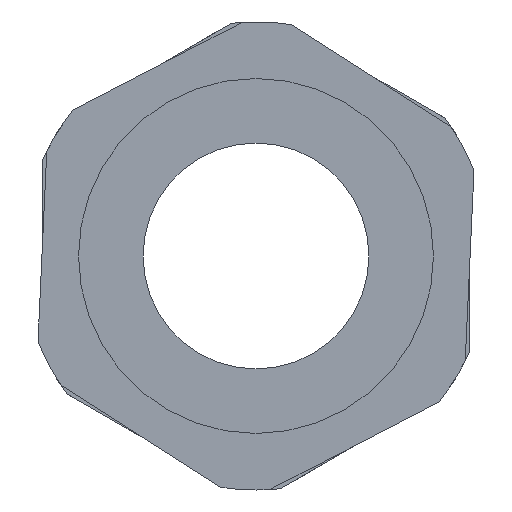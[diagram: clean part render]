
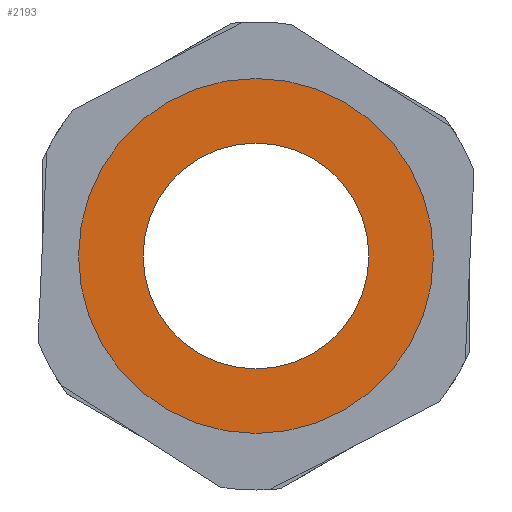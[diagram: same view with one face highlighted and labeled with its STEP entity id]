
A CAD part, front view. The second image highlights one B-rep face of the part: STEP entity #2193.
In plain terms, the highlighted planar face has unit normal (0, -1, 0).
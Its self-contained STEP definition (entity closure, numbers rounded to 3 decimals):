
#115 = CARTESIAN_POINT ( 'NONE',  ( 0., 0., 0. ) ) ;
#164 = AXIS2_PLACEMENT_3D ( 'NONE', #258, #1391, #1197 ) ;
#258 = CARTESIAN_POINT ( 'NONE',  ( 0., 0., 7. ) ) ;
#288 = ORIENTED_EDGE ( 'NONE', *, *, #1877, .F. ) ;
#351 = DIRECTION ( 'NONE',  ( 0., -1., 0. ) ) ;
#462 = AXIS2_PLACEMENT_3D ( 'NONE', #943, #351, #2071 ) ;
#468 = DIRECTION ( 'NONE',  ( 0., 0., -1. ) ) ;
#580 = DIRECTION ( 'NONE',  ( 0., -1., 0. ) ) ;
#588 = CARTESIAN_POINT ( 'NONE',  ( 0., 0., 0. ) ) ;
#626 = CIRCLE ( 'NONE', #1215, 11. ) ;
#657 = DIRECTION ( 'NONE',  ( 0., -1., 0. ) ) ;
#696 = VERTEX_POINT ( 'NONE', #1079 ) ;
#728 = CARTESIAN_POINT ( 'NONE',  ( 0., 0., 0. ) ) ;
#835 = VERTEX_POINT ( 'NONE', #1539 ) ;
#856 = EDGE_LOOP ( 'NONE', ( #1371, #1186 ) ) ;
#924 = EDGE_CURVE ( 'NONE', #2448, #835, #626, .T. ) ;
#943 = CARTESIAN_POINT ( 'NONE',  ( 0., 0., 0. ) ) ;
#1079 = CARTESIAN_POINT ( 'NONE',  ( 0., 0., -7. ) ) ;
#1186 = ORIENTED_EDGE ( 'NONE', *, *, #924, .T. ) ;
#1197 = DIRECTION ( 'NONE',  ( 0., 0., 1. ) ) ;
#1199 = EDGE_LOOP ( 'NONE', ( #288, #1700 ) ) ;
#1215 = AXIS2_PLACEMENT_3D ( 'NONE', #588, #580, #2117 ) ;
#1371 = ORIENTED_EDGE ( 'NONE', *, *, #2371, .T. ) ;
#1391 = DIRECTION ( 'NONE',  ( 0., 1., 0. ) ) ;
#1494 = DIRECTION ( 'NONE',  ( 0., 0., -1. ) ) ;
#1539 = CARTESIAN_POINT ( 'NONE',  ( 0., 0., -11. ) ) ;
#1587 = CARTESIAN_POINT ( 'NONE',  ( 0., 0., 11. ) ) ;
#1594 = EDGE_CURVE ( 'NONE', #1834, #696, #2175, .T. ) ;
#1675 = FACE_OUTER_BOUND ( 'NONE', #856, .T. ) ;
#1700 = ORIENTED_EDGE ( 'NONE', *, *, #1594, .F. ) ;
#1834 = VERTEX_POINT ( 'NONE', #1999 ) ;
#1877 = EDGE_CURVE ( 'NONE', #696, #1834, #2388, .T. ) ;
#1959 = AXIS2_PLACEMENT_3D ( 'NONE', #115, #657, #468 ) ;
#1964 = PLANE ( 'NONE',  #164 ) ;
#1999 = CARTESIAN_POINT ( 'NONE',  ( 0., 0., 7. ) ) ;
#2068 = DIRECTION ( 'NONE',  ( 0., -1., 0. ) ) ;
#2071 = DIRECTION ( 'NONE',  ( 0., 0., -1. ) ) ;
#2117 = DIRECTION ( 'NONE',  ( 0., 0., -1. ) ) ;
#2140 = FACE_BOUND ( 'NONE', #1199, .T. ) ;
#2175 = CIRCLE ( 'NONE', #1959, 7. ) ;
#2193 = ADVANCED_FACE ( 'NONE', ( #2140, #1675 ), #1964, .F. ) ;
#2295 = CIRCLE ( 'NONE', #462, 11. ) ;
#2307 = AXIS2_PLACEMENT_3D ( 'NONE', #728, #2068, #1494 ) ;
#2371 = EDGE_CURVE ( 'NONE', #835, #2448, #2295, .T. ) ;
#2388 = CIRCLE ( 'NONE', #2307, 7. ) ;
#2448 = VERTEX_POINT ( 'NONE', #1587 ) ;
